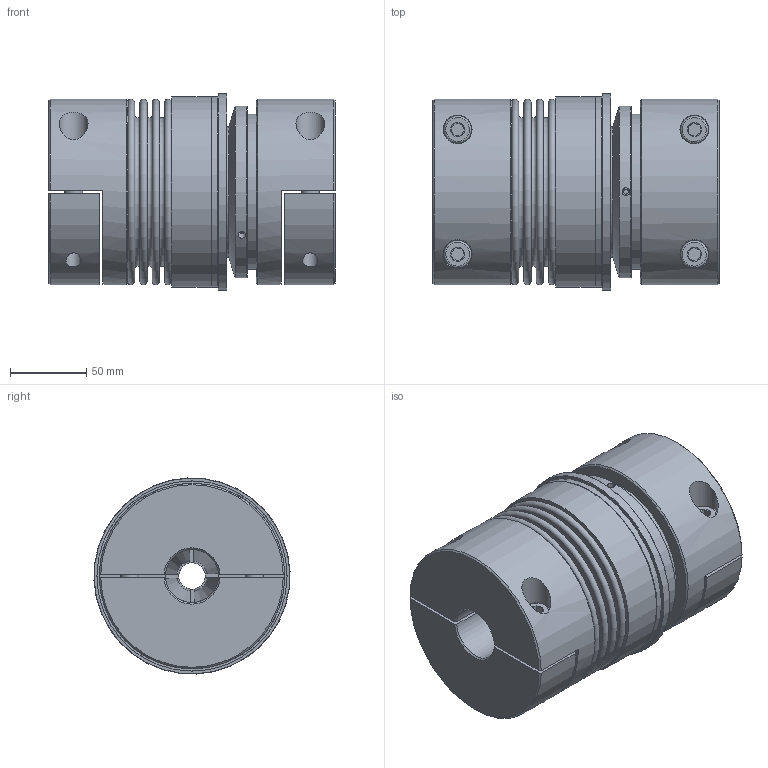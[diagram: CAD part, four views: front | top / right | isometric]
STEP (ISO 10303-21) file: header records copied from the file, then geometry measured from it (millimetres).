
FILE_DESCRIPTION( ( 'KBE1/14 - N7H8 - N14H7 - 98 Sh' ), '1' );
FILE_NAME( 'K:/Konstruktion/Fertigungszeichnungen/Überlastkupplung/KBK-B/KBK-BHH/500/KBK-B-H-500-189.stp', '14.12.2015', ( 'KBK-Antriebstechnik' ), ( 'KBK-Antriebstechnik' ), 'PSStep 16.0.42', 'Solid Edge St6', ' ' );
FILE_SCHEMA( ( 'AUTOMOTIVE_DESIGN { 1 0 10303 214 1 1 1 1 }' ) );
Length unit declared in the file: millimetre
Products named in the file (22): a_65; Stellring 500; KB4H8-500; KN4H-500-oa2; Spreiznabe KB8-500-oa3; KBK L-P-500 Grundkörper-oa1; KBK L-P-500 Grundkörper-oa0; 61913; 61913_PART1; 61913_PART2; 61913_PART3; Druckring 500; Assem1; ISO EN DIN 4762 M12x40; Flansch BK500; KN4H-500 (2); BK500_Standard_0
Assembly tree (42 placements, depth 3):
  Assem1
    ISO EN DIN 4762 M12x40  x4
    Flansch BK500
    KN4H-500 (2)
    KN4H-500 (2)
    BK500_Standard_0
    KBK L-P-500 Grundkörper-oa1
      KBK L-P-500 Grundkörper-oa0
    Stellring 500
      Stellring 500
    Druckring 500
      Druckring 500
    a_65
      a_65
    KB4H8-500
      KN4H-500-oa2
      KN4H-500-oa2
      Spreiznabe KB8-500-oa3
    61913
      61913_PART1
      61913_PART2
      61913_PART3  x19
Bounding box: 188.65 x 128.86 x 128.86 mm (x, y, z)
Volume: 1641191.3 mm3; surface area: 398980.9 mm2
Topology: 36 solids, 36 shells, 345 faces, 717 edges, 453 vertices
Faces by surface type: plane 144, cylinder 91, cone 56, torus 35, sphere 19
Full cylindrical faces by diameter (mm): 3 x2, 3.242 x3, 5.1 x3, 5.2 x3, 10.106 x4, 11 x4, 12 x8, 12.5 x4, 17.5 x1, 18 x4, 19 x4, 35 x2, 42 x1, 50 x1, 60 x1, 62 x1, 65 x3, 73.2 x2, 80 x1, 81.8 x2, 86 x2, 90 x2, 97.5 x2, 102 x1, 104.5 x1, 107.7 x2, 108.9 x2, 113 x1, 114 x1, 122 x2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
Entity records: 9050 total; most frequent: CARTESIAN_POINT 2160, DIRECTION 1192, ORIENTED_EDGE 786, AXIS2_PLACEMENT_3D 542, EDGE_LOOP 440, EDGE_CURVE 393, FACE_OUTER_BOUND 341, VERTEX_POINT 324
